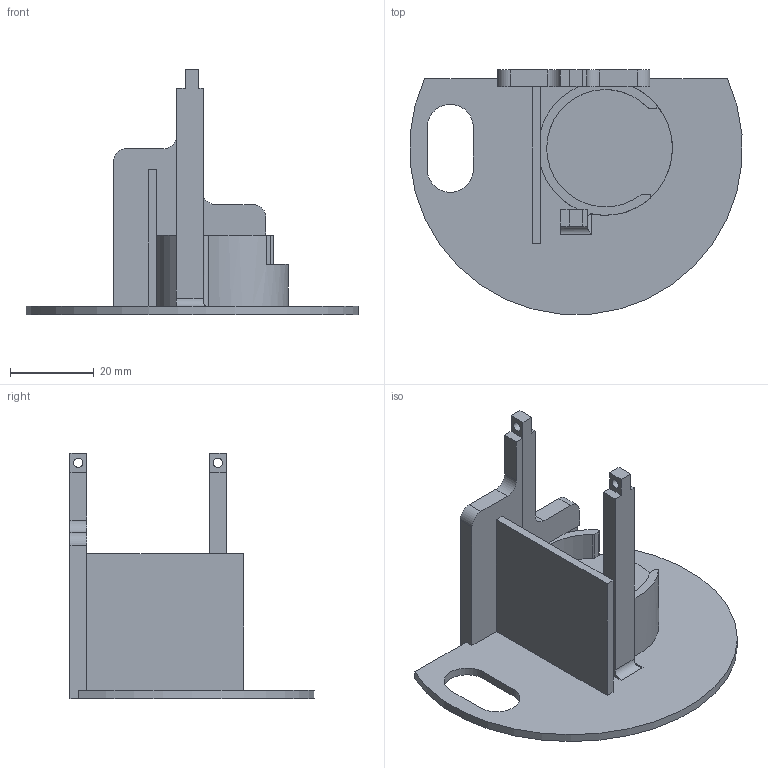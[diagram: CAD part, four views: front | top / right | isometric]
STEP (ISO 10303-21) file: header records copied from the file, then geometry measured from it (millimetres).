
FILE_DESCRIPTION(/* description */ (''),/* implementation_level */ '2;1');
FILE_NAME(/* name */ 'Shelf.step',/* time_stamp */ '2026-07-17T11:57:32+01:00',/* author */ (''),/* organization */ (''),/* preprocessor_version */ 'ST-DEVELOPER v20.1',/* originating_system */ 'Autodesk Translation Framework v15.8.0.0',/* authorisation */ '');
FILE_SCHEMA (('AUTOMOTIVE_DESIGN { 1 0 10303 214 3 1 1 }'));
Length unit declared in the file: millimetre
Products named in the file (1): Shelf
Bounding box: 79.23 x 58.26 x 58.6 mm (x, y, z)
Volume: 24892.6 mm3; surface area: 15723.6 mm2
Topology: 1 solids, 1 shells, 65 faces, 185 edges, 123 vertices
Faces by surface type: plane 45, cylinder 20
Full cylindrical faces by diameter (mm): 2.2 x2
Entity records: 2172 total; most frequent: CARTESIAN_POINT 383, ORIENTED_EDGE 370, DIRECTION 358, EDGE_CURVE 185, LINE 142, VECTOR 142, VERTEX_POINT 123, AXIS2_PLACEMENT_3D 108
